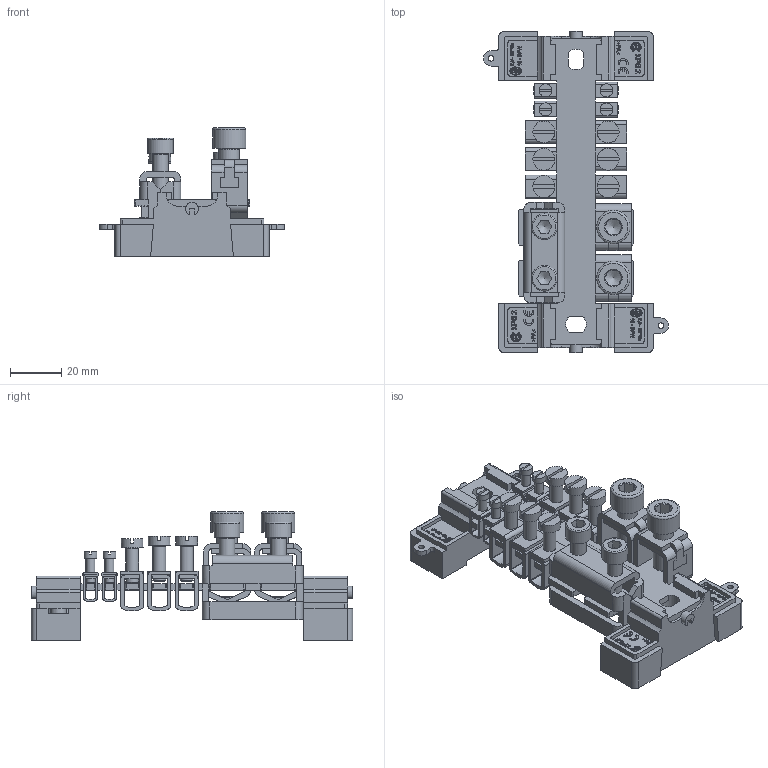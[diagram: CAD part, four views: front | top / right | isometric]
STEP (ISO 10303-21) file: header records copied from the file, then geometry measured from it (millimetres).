
FILE_DESCRIPTION(/* description */ ('Unknown'),/* implementation_level */ '2;1');
FILE_NAME(/* name */ 'EPS 2',/* time_stamp */ '2021-07-13T10:23:50+02:00',/* author */ ('Unknown'),/* organization */ ('Unknown'),/* preprocessor_version */ 'ST-DEVELOPER v16.7',/* originating_system */ 'Solid Edge',/* authorisation */ 'Unknown');
FILE_SCHEMA (('AUTOMOTIVE_DESIGN {1 0 10303 214 3 1 1}'));
Products named in the file (1): EPS 2
Bounding box: 72 x 125 x 50 mm (x, y, z)
Volume: 47568.6 mm3; surface area: 48784.4 mm2
Topology: 1 solids, 1 shells, 2106 faces, 5934 edges, 3898 vertices
Faces by surface type: plane 1530, cylinder 452, bspline 76, cone 30, torus 18
Full cylindrical faces by diameter (mm): 2.2 x2, 3.5 x16, 3.6 x4, 4.8 x6, 5 x22, 6 x4, 8 x8, 8.5 x6, 10 x2, 13 x2
Entity records: 85606 total; most frequent: CARTESIAN_POINT 16651, ORIENTED_EDGE 11520, DIRECTION 10586, EDGE_CURVE 5760, LINE 4564, VECTOR 4564, VERTEX_POINT 3848, AXIS2_PLACEMENT_3D 3011
